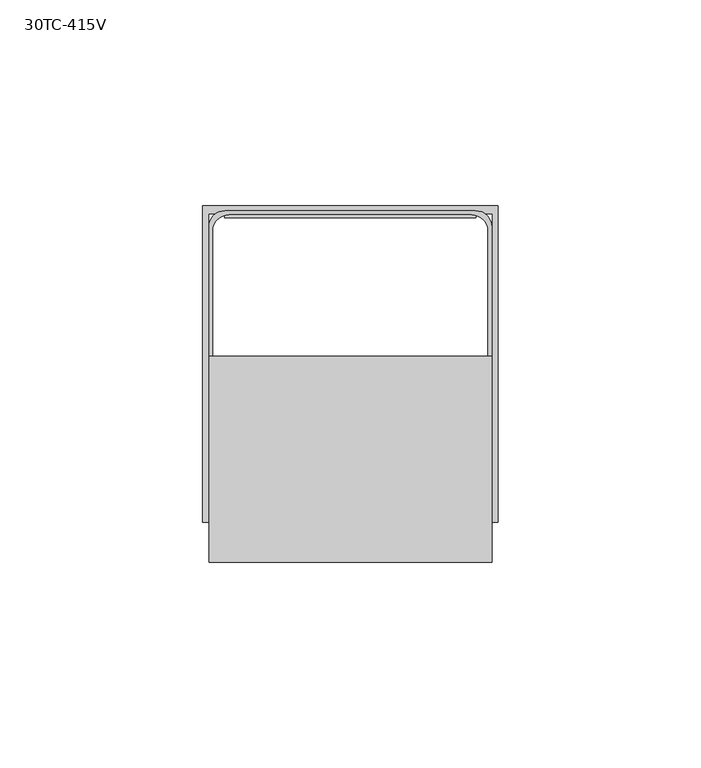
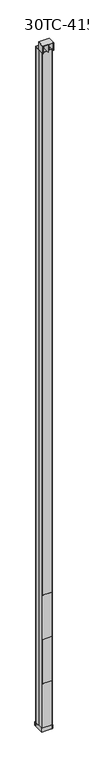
"""IFC4 building model written with IfcOpenShell, lengths in millimetres: proxy geometry, Vertical_Drop_Pole-Wiremold-Blank_Steel_Pole_Two_Compartment : 30TC-415V."""

from ifc_helpers import new_model, si_unit, point, frame, frame_2d, origin, origin_with_axes, place, context, project, spatial, polyline, circle_curve, trimmed, segment, composite_curve, outline, extrude, source, transform, mapped, element, save


def proxy_30tc_415v_3d708659(model_context):
    return source(origin(), model_context, "Body", "SweptSolid", [
        extrude(outline(polyline([(30.9760028, 3.0842362), (-31.0239972, 3.0842362), (-31.0239972, 4.0842362), (30.9760028, 4.0842362), (30.9760028, 3.0842362)])), frame((0.0, 0.0, 638.175), z_axis=(0.0, 0.0, 1.0), x_axis=(1.0, 0.0, 0.0)), (0.0, 0.0, 1.0), 306.3875),
        extrude(outline(polyline([(30.9760028, 3.0842362), (-31.0239972, 3.0842362), (-31.0239972, 4.0842362), (30.9760028, 4.0842362), (30.9760028, 3.0842362)])), frame((0.0, 0.0, 25.4), z_axis=(0.0, 0.0, 1.0), x_axis=(1.0, 0.0, 0.0)), (0.0, 0.0, 1.0), 306.3875),
        extrude(outline(polyline([(-31.0261847, 77.5967362), (30.9738153, 77.5967362), (30.9738153, 76.5967362), (-31.0261847, 76.5967362), (-31.0261847, 77.5967362)])), frame((0.0, 0.0, 25.4), z_axis=(0.0, 0.0, 1.0), x_axis=(1.0, 0.0, 0.0)), (0.0, 0.0, 1.0), 306.3875),
        extrude(outline(polyline([(-0.8191406, -9.1282089), (-0.8191406, 41.6717911), (0.9667969, 41.6717911), (0.9667969, -9.1282089), (-0.8191406, -9.1282089)])), frame((0.0, 0.0, 4699.0), z_axis=(0.0, 0.0, 1.0), x_axis=(1.0, 0.0, 0.0)), (0.0, 0.0, 1.0), 50.8),
        extrude(outline(polyline([(-23.8231255, 40.0842911), (23.9707817, 40.0842911), (23.9707817, 38.4967911), (-23.8231255, 38.4967911), (-23.8231255, 40.0842911)])), frame((0.0, 0.0, 4672.0125), z_axis=(0.0, 0.0, 1.0), x_axis=(1.0, 0.0, 0.0)), (0.0, 0.0, 1.0), 26.9875),
        extrude(outline(polyline([(-33.2636719, 41.6717911), (33.4113281, 41.6717911), (33.4113281, 40.0842911), (-33.2636719, 40.0842911), (-33.2636719, 41.6717911)])), frame((0.0, 0.0, 4699.0), z_axis=(0.0, 0.0, 1.0), x_axis=(1.0, 0.0, 0.0)), (0.0, 0.0, 1.0), 50.8),
        extrude(outline(polyline([(-34.8511719, -9.1282089), (-34.8511719, 41.6717911), (-33.2636719, 41.6717911), (-33.2636719, -9.1282089), (-34.8511719, -9.1282089)])), frame((0.0, 0.0, 4699.0), z_axis=(0.0, 0.0, 1.0), x_axis=(1.0, 0.0, 0.0)), (0.0, 0.0, 1.0), 50.8),
        extrude(outline(polyline([(33.4113281, -9.1282089), (33.4113281, 41.6717911), (34.9988281, 41.6717911), (34.9988281, -9.1282089), (33.4113281, -9.1282089)])), frame((0.0, 0.0, 4699.0), z_axis=(0.0, 0.0, 1.0), x_axis=(1.0, 0.0, 0.0)), (0.0, 0.0, 1.0), 50.8),
        extrude(outline(polyline([(-34.8511719, -9.1282089), (-34.8511719, 41.6717911), (34.9988281, 41.6717911), (34.9988281, -9.1282089), (-34.8511719, -9.1282089)])), frame((0.0, 0.0, 4749.8), z_axis=(0.0, 0.0, 1.0), x_axis=(1.0, 0.0, 0.0)), (0.0, 0.0, 1.0), 1.5875),
        extrude(outline(polyline([(-36.5125, 1.4967362), (-36.5125, 79.5967362), (36.5125, 79.5967362), (36.5125, 1.4967362), (-36.5125, 1.4967362)]), holes=[polyline([(34.925, 77.5967362), (-34.925, 77.5967362), (-34.925, 3.0842362), (34.925, 3.0842362), (34.925, 77.5967362)])]), origin_with_axes(), (0.0, 0.0, 1.0), 25.4),
        extrude(outline(composite_curve([segment(polyline([(-34.925, 39.4967362), (-34.925, 73.5967362)]), True, "CONTINUOUS"), segment(trimmed(circle_curve(frame_2d((-30.925, 73.5967362)), 4.0), [point((-34.925, 73.5967362))], [point((-30.925, 77.5967362))], False, "CARTESIAN"), True, "CONTINUOUS"), segment(polyline([(-30.925, 77.5967362), (30.925, 77.5967362)]), True, "CONTINUOUS"), segment(trimmed(circle_curve(frame_2d((30.925, 73.5967362)), 4.0), [point((30.925, 77.5967362))], [point((34.925, 73.5967362))], False, "CARTESIAN"), True, "CONTINUOUS"), segment(polyline([(34.925, 73.5967362), (34.925, 39.4967362), (-34.925, 39.4967362)]), True, "CONTINUOUS")], self_intersect=False), holes=[composite_curve([segment(trimmed(circle_curve(frame_2d((29.925, 72.5967362)), 4.0), [point((33.925, 72.5967362))], [point((29.925, 76.5967362))], True, "CARTESIAN"), True, "CONTINUOUS"), segment(polyline([(29.925, 76.5967362), (-29.925, 76.5967362)]), True, "CONTINUOUS"), segment(trimmed(circle_curve(frame_2d((-29.925, 72.5967362)), 4.0), [point((-29.925, 76.5967362))], [point((-33.925, 72.5967362))], True, "CARTESIAN"), True, "CONTINUOUS"), segment(polyline([(-33.925, 72.5967362), (-33.925, 40.4967362), (33.925, 40.4967362), (33.925, 72.5967362)]), True, "CONTINUOUS")], self_intersect=False)]), origin_with_axes(), (0.0, 0.0, 1.0), 4699.0),
        extrude(outline(composite_curve([segment(polyline([(34.925, 39.4967362), (34.925, 7.0842362)]), True, "CONTINUOUS"), segment(trimmed(circle_curve(frame_2d((30.925, 7.0842362)), 4.0), [point((34.925, 7.0842362))], [point((30.925, 3.0842362))], False, "CARTESIAN"), True, "CONTINUOUS"), segment(polyline([(30.925, 3.0842362), (-30.925, 3.0842362)]), True, "CONTINUOUS"), segment(trimmed(circle_curve(frame_2d((-30.925, 7.0842362)), 4.0), [point((-30.925, 3.0842362))], [point((-34.925, 7.0842362))], False, "CARTESIAN"), True, "CONTINUOUS"), segment(polyline([(-34.925, 7.0842362), (-34.925, 39.4967362), (34.925, 39.4967362)]), True, "CONTINUOUS")], self_intersect=False), holes=[composite_curve([segment(trimmed(circle_curve(frame_2d((-29.925, 8.0842362)), 4.0), [point((-33.925, 8.0842362))], [point((-29.925, 4.0842362))], True, "CARTESIAN"), True, "CONTINUOUS"), segment(polyline([(-29.925, 4.0842362), (29.925, 4.0842362)]), True, "CONTINUOUS"), segment(trimmed(circle_curve(frame_2d((29.925, 8.0842362)), 4.0), [point((29.925, 4.0842362))], [point((33.925, 8.0842362))], True, "CARTESIAN"), True, "CONTINUOUS"), segment(polyline([(33.925, 8.0842362), (33.925, 38.4967362), (-33.925, 38.4967362), (-33.925, 8.0842362)]), True, "CONTINUOUS")], self_intersect=False)]), origin_with_axes(), (0.0, 0.0, 1.0), 4699.0),
    ])


if __name__ == "__main__":
    model = new_model("IFC4")
    model_context = context("Model", 3, world=origin())
    ifc_project = project(units=[si_unit("LENGTHUNIT", "METRE", prefix="MILLI")], contexts=[model_context])
    site = spatial("IfcSite", under=ifc_project)
    building = spatial("IfcBuilding", under=site)
    placement = place(None, origin())
    proxy_30tc_415v_shape = proxy_30tc_415v_3d708659(model_context)
    element("IfcBuildingElementProxy", 1, Name="Vertical_Drop_Pole-Wiremold-Blank_Steel_Pole_Two_Compartment : 30TC-415V", ObjectType="Vertical_Drop_Pole-Wiremold-Blank_Steel_Pole_Two_Compartment : 30TC-415V", at=placement, inside=building, context=model_context, shape_type="MappedRepresentation", body=[
        mapped(proxy_30tc_415v_shape, transform((0.0, 0.0, 0.0), x_axis=(1.0, 0.0, 0.0), y_axis=(0.0, 1.0, 0.0), z_axis=(0.0, 0.0, 1.0))),
    ])
    save(model, "model.ifc")
